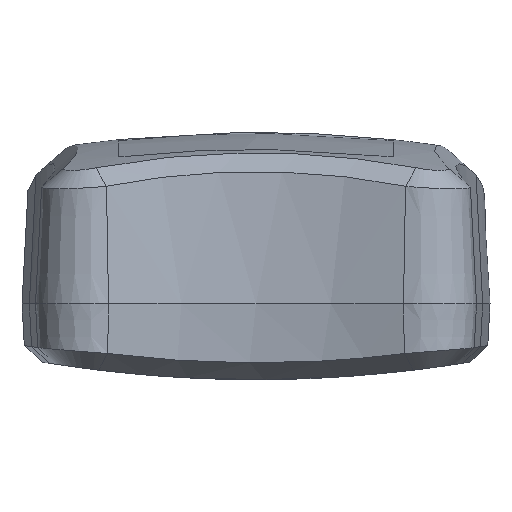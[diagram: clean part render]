
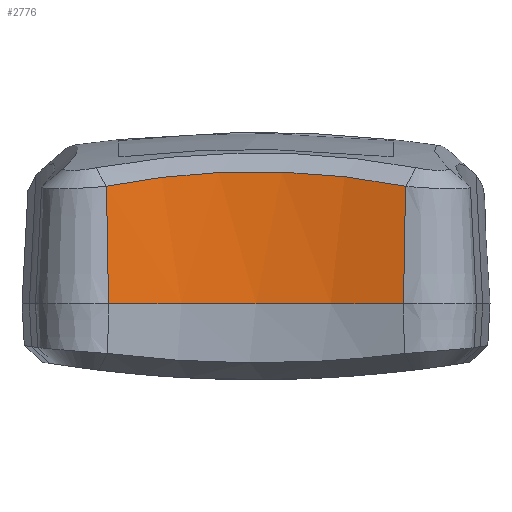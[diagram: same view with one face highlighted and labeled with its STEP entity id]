
A CAD part, front view. The second image highlights one B-rep face of the part: STEP entity #2776.
In plain terms, the highlighted conical face has half-angle 3 degrees and reference radius 33 mm.
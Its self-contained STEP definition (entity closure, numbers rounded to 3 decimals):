
#90 = DIRECTION ( 'NONE',  ( 0., 0., 1. ) ) ;
#182 = LINE ( 'NONE', #3194, #4070 ) ;
#287 = AXIS2_PLACEMENT_3D ( 'NONE', #4750, #90, #7648 ) ;
#407 = CARTESIAN_POINT ( 'NONE',  ( 10.411, -57.206, 8.622 ) ) ;
#454 = CARTESIAN_POINT ( 'NONE',  ( -7.774, -56.44, 9.058 ) ) ;
#602 = CARTESIAN_POINT ( 'NONE',  ( -9.101, -56.784, 8.862 ) ) ;
#750 = CARTESIAN_POINT ( 'NONE',  ( -10.848, -57.361, 8.534 ) ) ;
#802 = CARTESIAN_POINT ( 'NONE',  ( -9.979, -57.053, 8.709 ) ) ;
#1106 = CARTESIAN_POINT ( 'NONE',  ( -5.076, -55.896, 9.367 ) ) ;
#1113 = DIRECTION ( 'NONE',  ( 0.017, -0.05, -0.999 ) ) ;
#1154 = CARTESIAN_POINT ( 'NONE',  ( 9.971, -57.061, 8.704 ) ) ;
#1202 = CARTESIAN_POINT ( 'NONE',  ( -3.236, -55.655, 9.504 ) ) ;
#1252 = CARTESIAN_POINT ( 'NONE',  ( 8.427, -56.608, 8.962 ) ) ;
#1301 = CARTESIAN_POINT ( 'NONE',  ( 6.405, -56.134, 9.232 ) ) ;
#1605 = EDGE_CURVE ( 'NONE', #9636, #2478, #2137, .T. ) ;
#1716 = FACE_OUTER_BOUND ( 'NONE', #8084, .T. ) ;
#1819 = AXIS2_PLACEMENT_3D ( 'NONE', #5535, #6270, #4021 ) ;
#1847 = CARTESIAN_POINT ( 'NONE',  ( -4.387, -55.794, 9.425 ) ) ;
#1946 = CARTESIAN_POINT ( 'NONE',  ( -5.984, -56.049, 9.28 ) ) ;
#2137 = CIRCLE ( 'NONE', #1819, 33. ) ;
#2478 = VERTEX_POINT ( 'NONE', #3749 ) ;
#2690 = CARTESIAN_POINT ( 'NONE',  ( 9.31, -56.858, 8.82 ) ) ;
#2776 = ADVANCED_FACE ( 'NONE', ( #1716 ), #6723, .F. ) ;
#2784 = CARTESIAN_POINT ( 'NONE',  ( 1.147, -55.517, 9.583 ) ) ;
#2791 = LINE ( 'NONE', #7196, #7024 ) ;
#3096 = CARTESIAN_POINT ( 'NONE',  ( 10.848, -57.361, 8.534 ) ) ;
#3194 = CARTESIAN_POINT ( 'NONE',  ( 10.703, -57.784, 0. ) ) ;
#3421 = CARTESIAN_POINT ( 'NONE',  ( 8.647, -56.668, 8.928 ) ) ;
#3470 = CARTESIAN_POINT ( 'NONE',  ( 2.296, -55.575, 9.549 ) ) ;
#3516 = CARTESIAN_POINT ( 'NONE',  ( 0.228, -55.497, 9.594 ) ) ;
#3566 = CARTESIAN_POINT ( 'NONE',  ( 3.674, -55.692, 9.483 ) ) ;
#3749 = CARTESIAN_POINT ( 'NONE',  ( 10.703, -57.784, 0. ) ) ;
#4021 = DIRECTION ( 'NONE',  ( 1., 0., 0. ) ) ;
#4070 = VECTOR ( 'NONE', #8467, 1000. ) ;
#4147 = CARTESIAN_POINT ( 'NONE',  ( 9.089, -56.793, 8.857 ) ) ;
#4191 = CARTESIAN_POINT ( 'NONE',  ( -5.305, -55.933, 9.346 ) ) ;
#4244 = CARTESIAN_POINT ( 'NONE',  ( 7.756, -56.433, 9.062 ) ) ;
#4293 = CARTESIAN_POINT ( 'NONE',  ( 5.953, -56.046, 9.281 ) ) ;
#4439 = CARTESIAN_POINT ( 'NONE',  ( -7.998, -56.496, 9.026 ) ) ;
#4502 = ORIENTED_EDGE ( 'NONE', *, *, #5671, .T. ) ;
#4750 = CARTESIAN_POINT ( 'NONE',  ( 0., -89., 0. ) ) ;
#4827 = CARTESIAN_POINT ( 'NONE',  ( 0.457, -55.5, 9.592 ) ) ;
#4925 = CARTESIAN_POINT ( 'NONE',  ( -6.433, -56.137, 9.23 ) ) ;
#4970 = EDGE_CURVE ( 'NONE', #9133, #2478, #182, .T. ) ;
#4974 = CARTESIAN_POINT ( 'NONE',  ( 10.848, -57.361, 8.534 ) ) ;
#5535 = CARTESIAN_POINT ( 'NONE',  ( 0., -89., 0. ) ) ;
#5565 = CARTESIAN_POINT ( 'NONE',  ( -1.852, -55.537, 9.571 ) ) ;
#5665 = CARTESIAN_POINT ( 'NONE',  ( -3.697, -55.705, 9.476 ) ) ;
#5671 = EDGE_CURVE ( 'NONE', #9133, #9287, #9248, .T. ) ;
#6270 = DIRECTION ( 'NONE',  ( 0., 0., -1. ) ) ;
#6398 = CARTESIAN_POINT ( 'NONE',  ( 6.631, -56.18, 9.205 ) ) ;
#6495 = CARTESIAN_POINT ( 'NONE',  ( -0.927, -55.497, 9.594 ) ) ;
#6723 = CONICAL_SURFACE ( 'NONE', #287, 33., 0.052 ) ;
#7024 = VECTOR ( 'NONE', #1113, 1000. ) ;
#7094 = CARTESIAN_POINT ( 'NONE',  ( 7.306, -56.326, 9.122 ) ) ;
#7187 = CARTESIAN_POINT ( 'NONE',  ( -7.328, -56.333, 9.118 ) ) ;
#7196 = CARTESIAN_POINT ( 'NONE',  ( -10.703, -57.784, 0. ) ) ;
#7235 = CARTESIAN_POINT ( 'NONE',  ( 5.729, -56.005, 9.305 ) ) ;
#7288 = CARTESIAN_POINT ( 'NONE',  ( 4.59, -55.81, 9.416 ) ) ;
#7476 = ORIENTED_EDGE ( 'NONE', *, *, #4970, .F. ) ;
#7648 = DIRECTION ( 'NONE',  ( 1., 0., 0. ) ) ;
#7825 = CARTESIAN_POINT ( 'NONE',  ( -4.732, -55.842, 9.398 ) ) ;
#7884 = CARTESIAN_POINT ( 'NONE',  ( -10.848, -57.361, 8.534 ) ) ;
#7917 = CARTESIAN_POINT ( 'NONE',  ( -7.104, -56.282, 9.147 ) ) ;
#8084 = EDGE_LOOP ( 'NONE', ( #7476, #4502, #8436, #9296 ) ) ;
#8101 = CARTESIAN_POINT ( 'NONE',  ( -10.703, -57.784, 0. ) ) ;
#8436 = ORIENTED_EDGE ( 'NONE', *, *, #8593, .T. ) ;
#8467 = DIRECTION ( 'NONE',  ( -0.017, -0.05, -0.999 ) ) ;
#8593 = EDGE_CURVE ( 'NONE', #9287, #9636, #2791, .T. ) ;
#8639 = CARTESIAN_POINT ( 'NONE',  ( -5.422, -55.952, 9.335 ) ) ;
#9133 = VERTEX_POINT ( 'NONE', #3096 ) ;
#9248 = B_SPLINE_CURVE_WITH_KNOTS ( 'NONE', 3,
 ( #4974, #407, #1154, #2690, #4147, #3421, #1252, #4244, #7094, #6398, #1301, #4293, #7235, #7288, #3566, #3470, #9361, #2784, #9270, #4827, #3516, #6495, #5565, #1202, #5665, #1847, #7825, #1106, #4191, #8639, #1946, #4925, #7917, #7187, #454, #4439, #602, #802, #750 ),
 .UNSPECIFIED., .F., .F.,
 ( 4, 2, 2, 2, 2, 2, 2, 2, 2, 2, 2, 2, 2, 1, 2, 2, 2, 2, 2, 4 ),
 ( 0., 0.063, 0.094, 0.125, 0.188, 0.219, 0.25, 0.375, 0.438, 0.469, 0.5, 0.625, 0.688, 0.719, 0.734, 0.75, 0.813, 0.844, 0.875, 1. ),
 .UNSPECIFIED. ) ;
#9270 = CARTESIAN_POINT ( 'NONE',  ( 0.917, -55.509, 9.587 ) ) ;
#9287 = VERTEX_POINT ( 'NONE', #7884 ) ;
#9296 = ORIENTED_EDGE ( 'NONE', *, *, #1605, .T. ) ;
#9361 = CARTESIAN_POINT ( 'NONE',  ( 1.836, -55.546, 9.566 ) ) ;
#9636 = VERTEX_POINT ( 'NONE', #8101 ) ;
